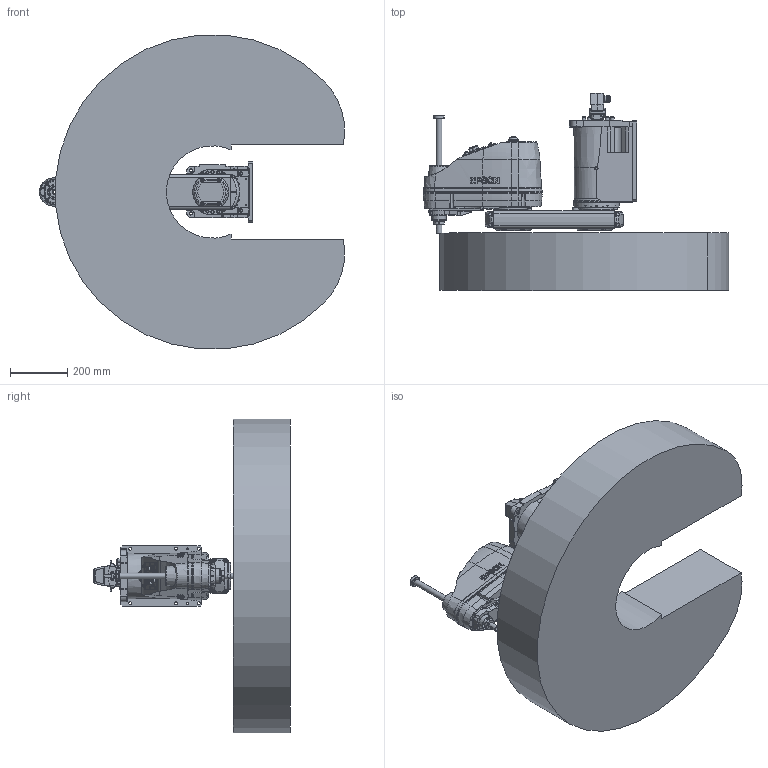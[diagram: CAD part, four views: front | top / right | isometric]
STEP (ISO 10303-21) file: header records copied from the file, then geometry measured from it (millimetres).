
FILE_DESCRIPTION( ( 'STEP AP214' ), '1' );
FILE_NAME( 'C:/Users/9607552/Desktop/GX8-B552SW_langle.stp', '2023-07-07T02:37:43', ( '' ), ( '' ), ' ', 'PARTsolutions', ' ' );
FILE_SCHEMA( ( 'AUTOMOTIVE_DESIGN { 1 0 10303 214 1 1 1 1 }' ) );
Length unit declared in the file: millimetre
Products named in the file (9): GX8-B552SWA-W; _B552SW_BASE; _B552SR; _B552SR_1; _B552SR_2; _B452S_J2; _B452SZA; _Angle-B; _GX8-21-B_WS
Assembly tree (10 placements, depth 2):
  GX8-B552SWA-W
    _B552SW_BASE
    _B552SR
    _B552SR_1  x2
    _B552SR_2  x2
    _B452S_J2
    _B452SZA
    _Angle-B
    _GX8-21-B_WS
Bounding box: 1066.99 x 688.1 x 1095.81 mm (x, y, z)
Volume: 167448777.1 mm3; surface area: 3482122 mm2
Topology: 10 solids, 10 shells, 2869 faces, 7026 edges, 4591 vertices
Faces by surface type: plane 1456, cylinder 933, cone 318, torus 119, bspline 37, sphere 6
Full cylindrical faces by diameter (mm): 1 x48, 1.18 x55, 2.261 x4, 2.459 x12, 3 x32, 3.242 x18, 3.3 x5, 3.9 x4, 4 x4, 4.2 x8, 4.5 x4, 4.8 x5, 5.34 x4, 5.5 x17, 6 x2, 6.2 x4, 6.647 x4, 6.8 x2, 7 x42, 8 x5, 8.5 x4, 9 x24, 10 x24, 11 x4, 11.2 x5, 11.5 x1, 12 x5, 12.25 x1, 13 x7, 13.2 x12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
Entity records: 102370 total; most frequent: CARTESIAN_POINT 19153, DIRECTION 12702, ORIENTED_EDGE 11698, EDGE_CURVE 5849, AXIS2_PLACEMENT_3D 4861, VERTEX_POINT 4220, EDGE_LOOP 3812, FACE_OUTER_BOUND 3169
